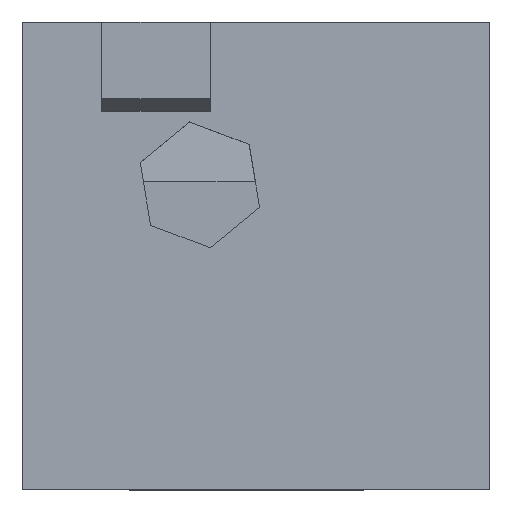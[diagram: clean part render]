
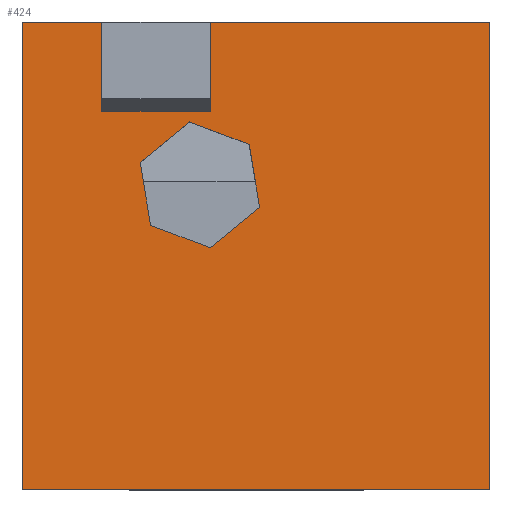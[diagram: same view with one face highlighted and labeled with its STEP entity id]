
A CAD part, top view. The second image highlights one B-rep face of the part: STEP entity #424.
In plain terms, the highlighted planar face has unit normal (0, 0, 1).
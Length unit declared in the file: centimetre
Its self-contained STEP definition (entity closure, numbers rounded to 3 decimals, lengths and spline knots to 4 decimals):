
#9 = EDGE_CURVE ( 'NONE', #816, #606, #587, .T. ) ;
#25 = DIRECTION ( 'NONE',  ( 0.773, 0.635, 0. ) ) ;
#29 = AXIS2_PLACEMENT_3D ( 'NONE', #679, #201, #518 ) ;
#30 = ORIENTED_EDGE ( 'NONE', *, *, #572, .F. ) ;
#59 = CARTESIAN_POINT ( 'NONE',  ( 0., 1000., 1000. ) ) ;
#81 = DIRECTION ( 'NONE',  ( 0., 1., 0. ) ) ;
#82 = CARTESIAN_POINT ( 'NONE',  ( 402.2675, 516.7239, 1000. ) ) ;
#83 = LINE ( 'NONE', #318, #339 ) ;
#93 = EDGE_CURVE ( 'NONE', #659, #353, #995, .T. ) ;
#102 = ORIENTED_EDGE ( 'NONE', *, *, #331, .T. ) ;
#107 = LINE ( 'NONE', #830, #720 ) ;
#118 = CARTESIAN_POINT ( 'NONE',  ( 252.1655, 699.3547, 1000. ) ) ;
#126 = FACE_OUTER_BOUND ( 'NONE', #1025, .T. ) ;
#153 = VERTEX_POINT ( 'NONE', #930 ) ;
#175 = VECTOR ( 'NONE', #481, 100. ) ;
#181 = EDGE_CURVE ( 'NONE', #722, #816, #832, .T. ) ;
#191 = VECTOR ( 'NONE', #691, 100. ) ;
#197 = CARTESIAN_POINT ( 'NONE',  ( 0., 1000., 1000. ) ) ;
#198 = EDGE_CURVE ( 'NONE', #282, #641, #754, .T. ) ;
#201 = DIRECTION ( 'NONE',  ( 0., 0., 1. ) ) ;
#205 = CARTESIAN_POINT ( 'NONE',  ( 169.9543, 809.3716, 1000. ) ) ;
#208 = DIRECTION ( 'NONE',  ( -1., 0., 0. ) ) ;
#230 = ORIENTED_EDGE ( 'NONE', *, *, #524, .F. ) ;
#236 = VECTOR ( 'NONE', #971, 100. ) ;
#251 = CARTESIAN_POINT ( 'NONE',  ( 274.4955, 564.7086, 1000. ) ) ;
#265 = EDGE_CURVE ( 'NONE', #153, #735, #557, .T. ) ;
#268 = ORIENTED_EDGE ( 'NONE', *, *, #1044, .T. ) ;
#276 = CARTESIAN_POINT ( 'NONE',  ( 274.4955, 564.7086, 1000. ) ) ;
#282 = VERTEX_POINT ( 'NONE', #953 ) ;
#294 = EDGE_CURVE ( 'NONE', #353, #938, #627, .T. ) ;
#299 = DIRECTION ( 'NONE',  ( -0.936, 0.352, 0. ) ) ;
#302 = CARTESIAN_POINT ( 'NONE',  ( 169.9543, 1000., 1000. ) ) ;
#305 = VERTEX_POINT ( 'NONE', #872 ) ;
#306 = CARTESIAN_POINT ( 'NONE',  ( 0., 1000., 1000. ) ) ;
#310 = CARTESIAN_POINT ( 'NONE',  ( 169.9543, 809.3716, 1000. ) ) ;
#311 = EDGE_CURVE ( 'NONE', #332, #1017, #860, .T. ) ;
#318 = CARTESIAN_POINT ( 'NONE',  ( 357.6075, 786.0161, 1000. ) ) ;
#331 = EDGE_CURVE ( 'NONE', #305, #735, #393, .T. ) ;
#332 = VERTEX_POINT ( 'NONE', #370 ) ;
#339 = VECTOR ( 'NONE', #648, 100. ) ;
#340 = EDGE_LOOP ( 'NONE', ( #438, #529, #697, #230, #906, #899 ) ) ;
#348 = PLANE ( 'NONE',  #29 ) ;
#353 = VERTEX_POINT ( 'NONE', #302 ) ;
#361 = LINE ( 'NONE', #559, #236 ) ;
#370 = CARTESIAN_POINT ( 'NONE',  ( 485.3794, 738.0314, 1000. ) ) ;
#393 = LINE ( 'NONE', #306, #666 ) ;
#415 = EDGE_CURVE ( 'NONE', #938, #282, #528, .T. ) ;
#424 = ADVANCED_FACE ( 'NONE', ( #126, #618 ), #348, .T. ) ;
#438 = ORIENTED_EDGE ( 'NONE', *, *, #863, .F. ) ;
#440 = VECTOR ( 'NONE', #299, 100. ) ;
#476 = LINE ( 'NONE', #310, #175 ) ;
#481 = DIRECTION ( 'NONE',  ( 1., 0., 0. ) ) ;
#518 = DIRECTION ( 'NONE',  ( 1., 0., 0. ) ) ;
#524 = EDGE_CURVE ( 'NONE', #818, #722, #361, .T. ) ;
#525 = DIRECTION ( 'NONE',  ( 1., 0., 0. ) ) ;
#526 = CARTESIAN_POINT ( 'NONE',  ( 402.2675, 516.7239, 1000. ) ) ;
#528 = LINE ( 'NONE', #197, #191 ) ;
#529 = ORIENTED_EDGE ( 'NONE', *, *, #9, .F. ) ;
#550 = VECTOR ( 'NONE', #923, 100. ) ;
#557 = LINE ( 'NONE', #706, #594 ) ;
#559 = CARTESIAN_POINT ( 'NONE',  ( 252.1655, 699.3547, 1000. ) ) ;
#572 = EDGE_CURVE ( 'NONE', #659, #153, #476, .T. ) ;
#575 = ORIENTED_EDGE ( 'NONE', *, *, #198, .T. ) ;
#587 = LINE ( 'NONE', #82, #593 ) ;
#588 = CARTESIAN_POINT ( 'NONE',  ( 507.7094, 603.3853, 1000. ) ) ;
#593 = VECTOR ( 'NONE', #25, 100. ) ;
#594 = VECTOR ( 'NONE', #1034, 100. ) ;
#604 = DIRECTION ( 'NONE',  ( 0.936, -0.352, 0. ) ) ;
#606 = VERTEX_POINT ( 'NONE', #613 ) ;
#613 = CARTESIAN_POINT ( 'NONE',  ( 507.7094, 603.3853, 1000. ) ) ;
#618 = FACE_BOUND ( 'NONE', #340, .T. ) ;
#627 = LINE ( 'NONE', #713, #904 ) ;
#641 = VERTEX_POINT ( 'NONE', #939 ) ;
#648 = DIRECTION ( 'NONE',  ( -0.773, -0.635, 0. ) ) ;
#659 = VERTEX_POINT ( 'NONE', #205 ) ;
#666 = VECTOR ( 'NONE', #208, 100. ) ;
#673 = CARTESIAN_POINT ( 'NONE',  ( 169.9543, 809.3716, 1000. ) ) ;
#679 = CARTESIAN_POINT ( 'NONE',  ( 0., 0., 1000. ) ) ;
#691 = DIRECTION ( 'NONE',  ( 0., -1., 0. ) ) ;
#697 = ORIENTED_EDGE ( 'NONE', *, *, #181, .F. ) ;
#706 = CARTESIAN_POINT ( 'NONE',  ( 402.2675, 809.3716, 1000. ) ) ;
#713 = CARTESIAN_POINT ( 'NONE',  ( 0., 1000., 1000. ) ) ;
#719 = DIRECTION ( 'NONE',  ( -1., 0., 0. ) ) ;
#720 = VECTOR ( 'NONE', #81, 100. ) ;
#722 = VERTEX_POINT ( 'NONE', #251 ) ;
#725 = CARTESIAN_POINT ( 'NONE',  ( 402.2675, 1000., 1000. ) ) ;
#735 = VERTEX_POINT ( 'NONE', #725 ) ;
#736 = ORIENTED_EDGE ( 'NONE', *, *, #93, .T. ) ;
#754 = LINE ( 'NONE', #999, #871 ) ;
#756 = EDGE_CURVE ( 'NONE', #1017, #818, #83, .T. ) ;
#777 = ORIENTED_EDGE ( 'NONE', *, *, #415, .T. ) ;
#816 = VERTEX_POINT ( 'NONE', #526 ) ;
#818 = VERTEX_POINT ( 'NONE', #118 ) ;
#830 = CARTESIAN_POINT ( 'NONE',  ( 1000., 1000., 1000. ) ) ;
#832 = LINE ( 'NONE', #276, #941 ) ;
#847 = ORIENTED_EDGE ( 'NONE', *, *, #265, .F. ) ;
#860 = LINE ( 'NONE', #1041, #440 ) ;
#863 = EDGE_CURVE ( 'NONE', #606, #332, #1016, .T. ) ;
#871 = VECTOR ( 'NONE', #525, 100. ) ;
#872 = CARTESIAN_POINT ( 'NONE',  ( 1000., 1000., 1000. ) ) ;
#884 = CARTESIAN_POINT ( 'NONE',  ( 357.6075, 786.0161, 1000. ) ) ;
#899 = ORIENTED_EDGE ( 'NONE', *, *, #311, .F. ) ;
#904 = VECTOR ( 'NONE', #719, 100. ) ;
#906 = ORIENTED_EDGE ( 'NONE', *, *, #756, .F. ) ;
#910 = VECTOR ( 'NONE', #996, 100. ) ;
#923 = DIRECTION ( 'NONE',  ( 0., 1., 0. ) ) ;
#930 = CARTESIAN_POINT ( 'NONE',  ( 402.2675, 809.3716, 1000. ) ) ;
#938 = VERTEX_POINT ( 'NONE', #59 ) ;
#939 = CARTESIAN_POINT ( 'NONE',  ( 1000., 0., 1000. ) ) ;
#941 = VECTOR ( 'NONE', #604, 100. ) ;
#953 = CARTESIAN_POINT ( 'NONE',  ( 0., 0., 1000. ) ) ;
#971 = DIRECTION ( 'NONE',  ( 0.164, -0.987, 0. ) ) ;
#995 = LINE ( 'NONE', #673, #550 ) ;
#996 = DIRECTION ( 'NONE',  ( -0.164, 0.987, 0. ) ) ;
#999 = CARTESIAN_POINT ( 'NONE',  ( 0., 0., 1000. ) ) ;
#1016 = LINE ( 'NONE', #588, #910 ) ;
#1017 = VERTEX_POINT ( 'NONE', #884 ) ;
#1025 = EDGE_LOOP ( 'NONE', ( #736, #1040, #777, #575, #268, #102, #847, #30 ) ) ;
#1034 = DIRECTION ( 'NONE',  ( 0., 1., 0. ) ) ;
#1040 = ORIENTED_EDGE ( 'NONE', *, *, #294, .T. ) ;
#1041 = CARTESIAN_POINT ( 'NONE',  ( 485.3794, 738.0314, 1000. ) ) ;
#1044 = EDGE_CURVE ( 'NONE', #641, #305, #107, .T. ) ;
